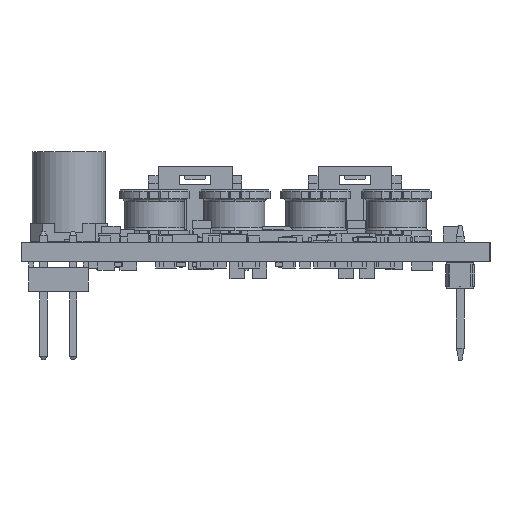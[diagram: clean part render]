
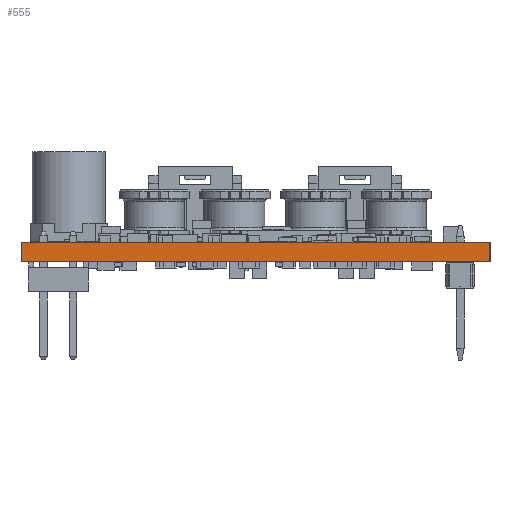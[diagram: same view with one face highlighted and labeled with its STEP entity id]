
A CAD part, left-side view. The second image highlights one B-rep face of the part: STEP entity #555.
In plain terms, the highlighted planar face has unit normal (-1, 0, 0).
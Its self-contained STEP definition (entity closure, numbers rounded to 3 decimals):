
#457 = EDGE_CURVE('',#458,#460,#462,.T.);
#458 = VERTEX_POINT('',#459);
#459 = CARTESIAN_POINT('',(0.,0.,0.));
#460 = VERTEX_POINT('',#461);
#461 = CARTESIAN_POINT('',(0.,0.,1.642));
#462 = LINE('',#463,#464);
#463 = CARTESIAN_POINT('',(0.,0.,0.));
#464 = VECTOR('',#465,1.);
#465 = DIRECTION('',(0.,0.,1.));
#530 = VERTEX_POINT('',#531);
#531 = CARTESIAN_POINT('',(0.,40.,1.642));
#537 = EDGE_CURVE('',#538,#530,#540,.T.);
#538 = VERTEX_POINT('',#539);
#539 = CARTESIAN_POINT('',(0.,40.,0.));
#540 = LINE('',#541,#542);
#541 = CARTESIAN_POINT('',(0.,40.,0.));
#542 = VECTOR('',#543,1.);
#543 = DIRECTION('',(0.,0.,1.));
#555 = ADVANCED_FACE('',(#556),#572,.F.);
#556 = FACE_BOUND('',#557,.F.);
#557 = EDGE_LOOP('',(#558,#559,#565,#566));
#558 = ORIENTED_EDGE('',*,*,#537,.T.);
#559 = ORIENTED_EDGE('',*,*,#560,.T.);
#560 = EDGE_CURVE('',#530,#460,#561,.T.);
#561 = LINE('',#562,#563);
#562 = CARTESIAN_POINT('',(0.,40.,1.642));
#563 = VECTOR('',#564,1.);
#564 = DIRECTION('',(0.,-1.,0.));
#565 = ORIENTED_EDGE('',*,*,#457,.F.);
#566 = ORIENTED_EDGE('',*,*,#567,.F.);
#567 = EDGE_CURVE('',#538,#458,#568,.T.);
#568 = LINE('',#569,#570);
#569 = CARTESIAN_POINT('',(0.,40.,0.));
#570 = VECTOR('',#571,1.);
#571 = DIRECTION('',(0.,-1.,0.));
#572 = PLANE('',#573);
#573 = AXIS2_PLACEMENT_3D('',#574,#575,#576);
#574 = CARTESIAN_POINT('',(0.,40.,0.));
#575 = DIRECTION('',(1.,0.,0.));
#576 = DIRECTION('',(0.,-1.,0.));
